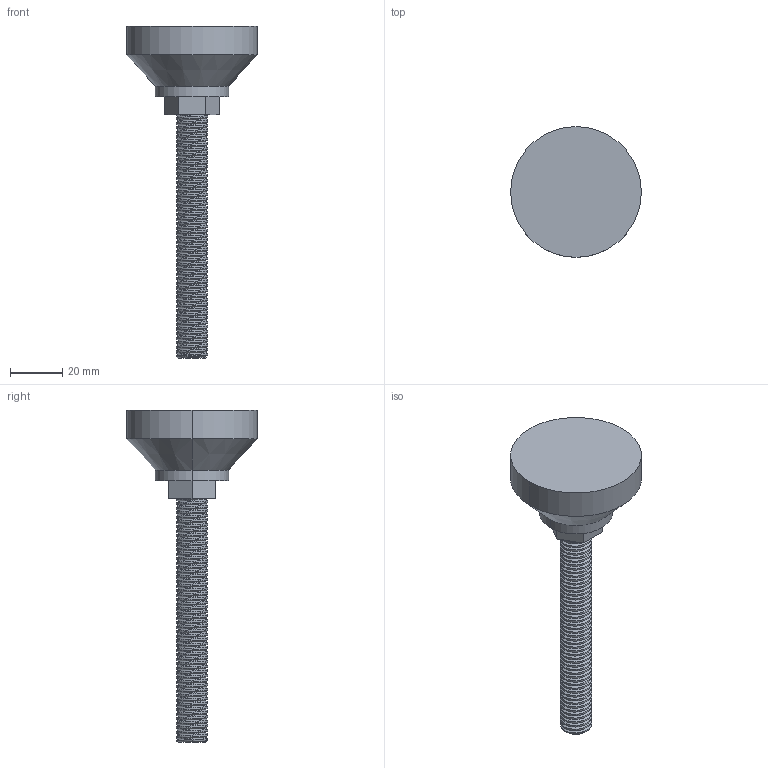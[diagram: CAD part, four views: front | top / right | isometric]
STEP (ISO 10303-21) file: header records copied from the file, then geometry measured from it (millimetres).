
FILE_DESCRIPTION (( 'STEP AP203' ), '1' );
FILE_NAME ('227-CE-DAFF-12.STEP', '2015-07-09T09:32:01', ( '' ), ( '' ), 'SwSTEP 2.0', 'SolidWorks 2013', '' );
FILE_SCHEMA (( 'CONFIG_CONTROL_DESIGN' ));
Length unit declared in the file: millimetre
Products named in the file (1): 227-CE-DAFF-12
Bounding box: 50 x 50 x 127 mm (x, y, z)
Volume: 50292.9 mm3; surface area: 12390.3 mm2
Topology: 1 solids, 1 shells, 129 faces, 371 edges, 246 vertices
Faces by surface type: cylinder 112, plane 11, cone 2, torus 2, bspline 2
Entity records: 8630 total; most frequent: CARTESIAN_POINT 5810, ORIENTED_EDGE 742, DIRECTION 425, EDGE_CURVE 371, VERTEX_POINT 246, AXIS2_PLACEMENT_3D 145, VECTOR 135, LINE 135
